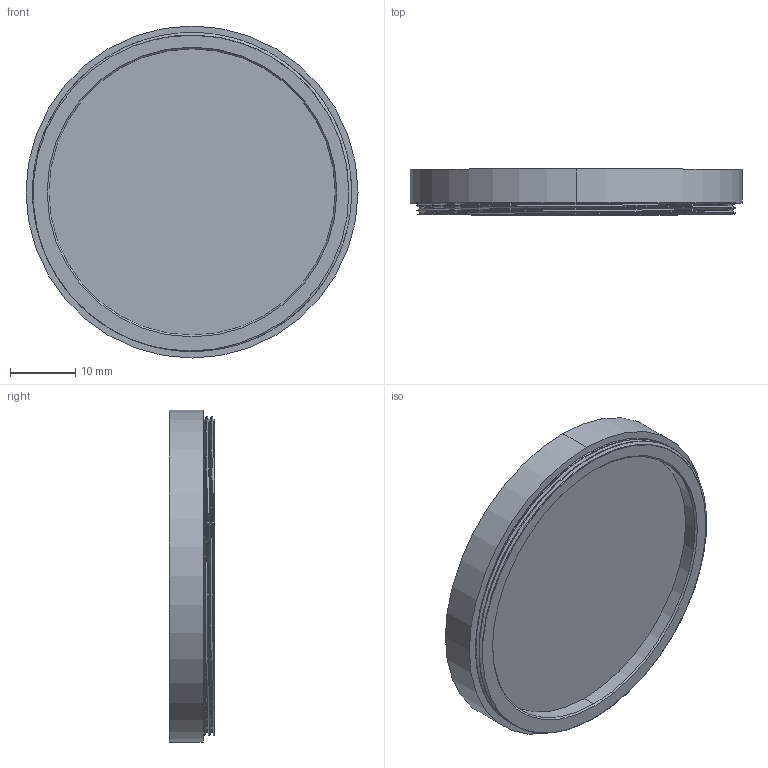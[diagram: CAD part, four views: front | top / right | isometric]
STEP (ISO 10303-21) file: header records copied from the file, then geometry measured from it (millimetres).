
FILE_DESCRIPTION (( 'STEP AP214' ), '1' );
FILE_NAME ('M49 x P0.75.STEP', '2023-01-19T08:18:06', ( '' ), ( '' ), 'SwSTEP 2.0', 'SolidWorks 2021', '' );
FILE_SCHEMA (( 'AUTOMOTIVE_DESIGN' ));
Length unit declared in the file: millimetre
Products named in the file (1): M49 x P0.75
Bounding box: 51 x 7 x 51 mm (x, y, z)
Volume: 2826.8 mm3; surface area: 7670 mm2
Topology: 3 solids, 3 shells, 47 faces, 112 edges, 74 vertices
Faces by surface type: cylinder 25, plane 11, bspline 9, cone 2
Entity records: 3225 total; most frequent: CARTESIAN_POINT 2207, ORIENTED_EDGE 224, DIRECTION 173, EDGE_CURVE 112, VERTEX_POINT 74, AXIS2_PLACEMENT_3D 73, EDGE_LOOP 54, FACE_OUTER_BOUND 47
